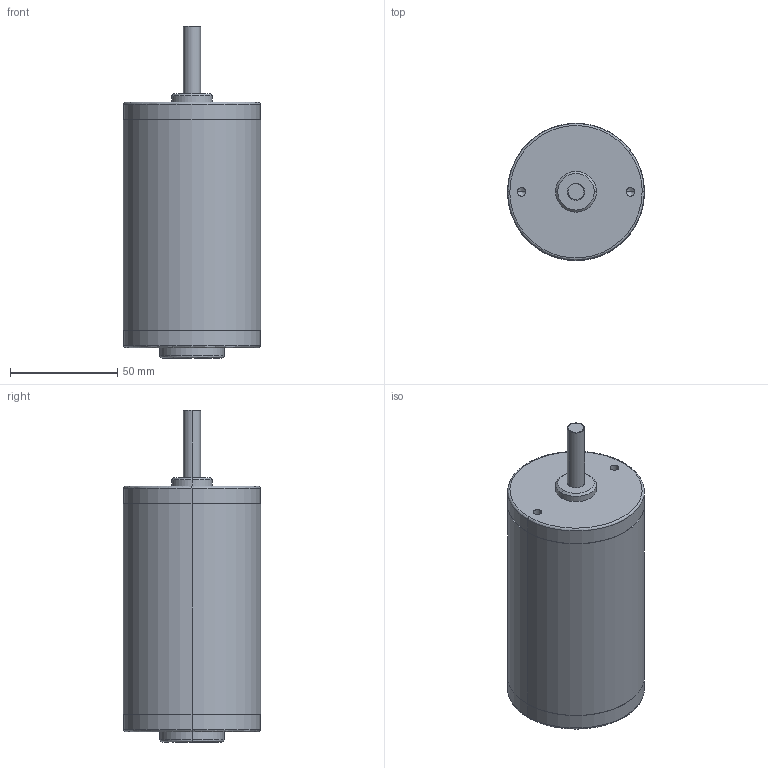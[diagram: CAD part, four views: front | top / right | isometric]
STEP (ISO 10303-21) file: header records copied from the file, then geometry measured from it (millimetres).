
FILE_DESCRIPTION (( 'STEP AP214' ), '1' );
FILE_NAME ('CIM_Motor-am-0255.step', '2025-12-23T15:54:51', ( '' ), ( '' ), 'SwSTEP 2.0', 'SolidWorks 2026', '' );
FILE_SCHEMA (( 'AUTOMOTIVE_DESIGN' ));
Length unit declared in the file: inch
Products named in the file (1): CIM_Motor-am-0255
Bounding box: 64.01 x 64.01 x 154.93 mm (x, y, z)
Volume: 374007.6 mm3; surface area: 31050.2 mm2
Topology: 1 solids, 1 shells, 37 faces, 76 edges, 44 vertices
Faces by surface type: cylinder 16, bspline 8, plane 7, cone 6
Entity records: 1067 total; most frequent: CARTESIAN_POINT 298, DIRECTION 166, ORIENTED_EDGE 144, EDGE_CURVE 72, AXIS2_PLACEMENT_3D 72, VERTEX_POINT 44, EDGE_LOOP 44, CIRCLE 42
